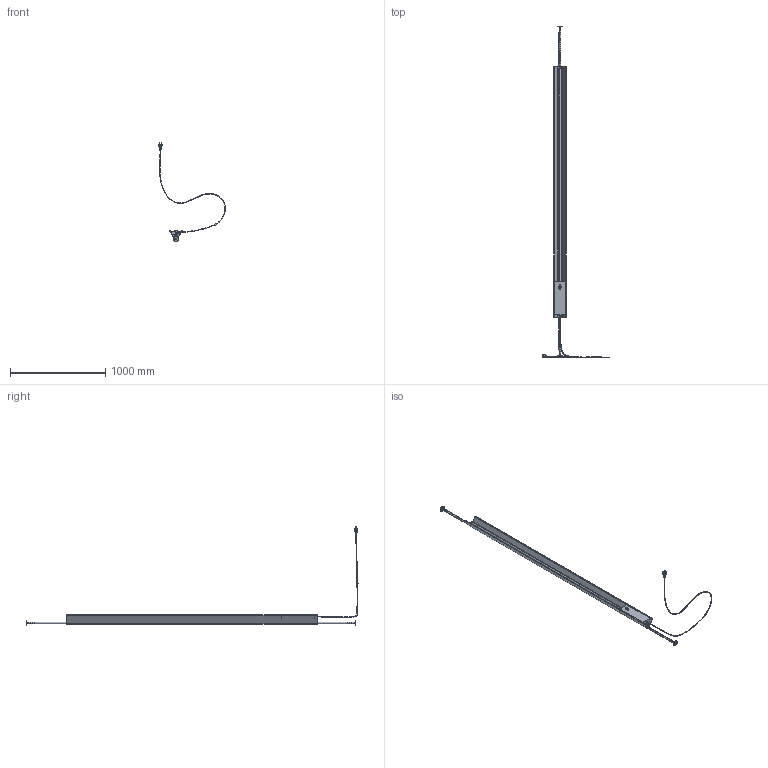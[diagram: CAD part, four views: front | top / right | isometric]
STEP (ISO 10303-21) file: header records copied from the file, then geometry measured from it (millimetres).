
FILE_DESCRIPTION (( 'STEP AP203' ), '1' );
FILE_NAME ('ATP-T13-F201-R00_27.STEP', '2023-06-27T12:55:57', ( '' ), ( '' ), 'SwSTEP 2.0', 'SolidWorks 2023', '' );
FILE_SCHEMA (( 'CONFIG_CONTROL_DESIGN' ));
Length unit declared in the file: millimetre
Products named in the file (22): Nipple con doppia Fresata AVS 15XX-FR; ATP-T13-F201-R00_27; Viti a Testa Bombata e Cava Esagonale ISO-7380_VITE M3X10 TBCE ISO-7380 ; ATC-T13-F105-R00; Elesa M8 Indexing plungers GN 717-5-M8-D-ST; Base GN 717-5-M8-D-ST(0); Rondelle Piatte ISO-7089_RONDELLA M3 PIANA; ATC-T13-F201-R00; ATC-T13-F111-R00; ATC-T13-F102-R00; ATC-T13-F113-R00; ATC-T13-F115-R00; ATC-T13-F110-R00; ATC-T13-F112-R00; ATC-T13-F118-R00; Head GN 717-5-M8-D-ST(0); ATC-T13-F116-R00; ATC-T13-F109-R00; ATC-T13-F203-R00_IN POSIZIONE; ATA-T13-F101-R00; ATC-T13-F108-R00; ATA-T13-F103-R00
Assembly tree (31 placements, depth 4):
  ATP-T13-F201-R00_27
    Nipple con doppia Fresata AVS 15XX-FR
    Rondelle Piatte ISO-7089_RONDELLA M3 PIANA  x3
    Viti a Testa Bombata e Cava Esagonale ISO-7380_VITE M3X10 TBCE ISO-7380   x3
    Elesa M8 Indexing plungers GN 717-5-M8-D-ST  x2
      Head GN 717-5-M8-D-ST(0)
      Base GN 717-5-M8-D-ST(0)
    ATA-T13-F103-R00  x2
      ATA-T13-F101-R00
        ATC-T13-F111-R00
        ATC-T13-F110-R00
    ATC-T13-F201-R00
    ATC-T13-F203-R00_IN POSIZIONE
    ATC-T13-F112-R00  x2
    ATC-T13-F113-R00  x2
    ATC-T13-F115-R00  x2
    ATC-T13-F102-R00
    ATC-T13-F108-R00
    ATC-T13-F116-R00
    ATC-T13-F105-R00
    ATC-T13-F109-R00  x2
    ATC-T13-F118-R00
Bounding box: 701.27 x 3483.8 x 1045.35 mm (x, y, z)
Volume: 4258865.9 mm3; surface area: 2181148.5 mm2
Topology: 36 solids, 40 shells, 1105 faces, 2911 edges, 1809 vertices
Faces by surface type: cylinder 472, plane 355, bspline 160, cone 108, torus 10
Entity records: 41987 total; most frequent: CARTESIAN_POINT 19196, ORIENTED_EDGE 4470, DIRECTION 3923, EDGE_CURVE 2237, AXIS2_PLACEMENT_3D 1477, VERTEX_POINT 1396, VECTOR 969, LINE 969
